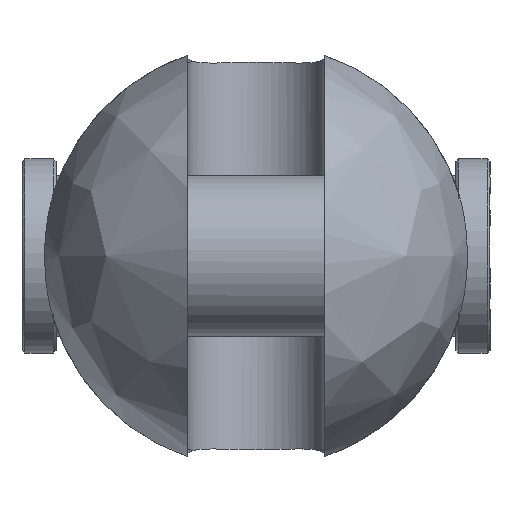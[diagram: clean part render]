
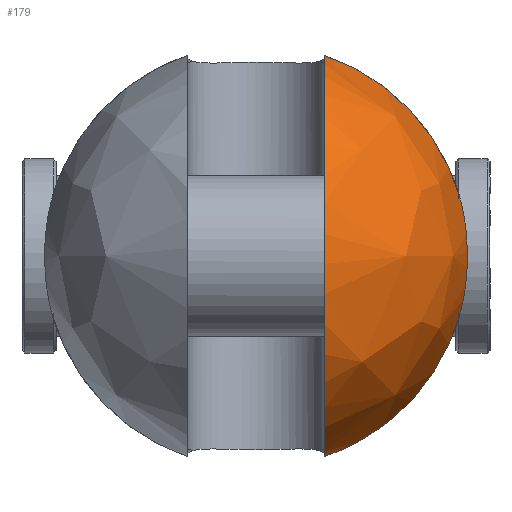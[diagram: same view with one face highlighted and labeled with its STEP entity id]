
A CAD part, left-side view. The second image highlights one B-rep face of the part: STEP entity #179.
In plain terms, the highlighted free-form (B-spline) face has degree [2, 2] with [9, 5] control points.
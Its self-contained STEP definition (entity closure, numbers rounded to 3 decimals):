
#179=ADVANCED_FACE('',(#321),#2442,.T.);
#321=FACE_OUTER_BOUND('',#482,.T.);
#482=EDGE_LOOP('',(#1205,#1206,#1207,#1208));
#1205=ORIENTED_EDGE('',*,*,#1591,.T.);
#1206=ORIENTED_EDGE('',*,*,#1618,.F.);
#1207=ORIENTED_EDGE('',*,*,#1629,.T.);
#1208=ORIENTED_EDGE('',*,*,#1611,.F.);
#1591=EDGE_CURVE('',#2273,#2272,#2004,.T.);
#1611=EDGE_CURVE('',#2273,#2285,#2014,.T.);
#1618=EDGE_CURVE('',#2292,#2272,#2015,.T.);
#1629=EDGE_CURVE('',#2292,#2285,#1805,.T.);
#1805=B_SPLINE_CURVE_WITH_KNOTS('',3,(#6101,#6102,#6103,#6104,#6105,#6106,
#6107,#6108,#6109,#6110,#6111,#6112,#6113,#6114),.UNSPECIFIED.,.F.,.F.,
(4,2,2,2,2,2,4),(0.,1.491,6.078,10.666,
15.254,19.842,21.333),.UNSPECIFIED.);
#2004=(
BOUNDED_CURVE()
B_SPLINE_CURVE(2,(#5921,#5922,#5923,#5924,#5925),.UNSPECIFIED.,.F.,.F.)
B_SPLINE_CURVE_WITH_KNOTS((3,2,3),(-109.956,-54.978,
0.),.UNSPECIFIED.)
CURVE()
GEOMETRIC_REPRESENTATION_ITEM()
RATIONAL_B_SPLINE_CURVE((1.,0.707,1.,0.707,1.))
REPRESENTATION_ITEM('')
);
#2014=(
BOUNDED_CURVE()
B_SPLINE_CURVE(2,(#6023,#6024,#6025),.UNSPECIFIED.,.F.,.F.)
B_SPLINE_CURVE_WITH_KNOTS((3,3),(0.,35.825),.UNSPECIFIED.)
CURVE()
GEOMETRIC_REPRESENTATION_ITEM()
RATIONAL_B_SPLINE_CURVE((1.,0.885,1.))
REPRESENTATION_ITEM('')
);
#2015=(
BOUNDED_CURVE()
B_SPLINE_CURVE(2,(#6054,#6055,#6056),.UNSPECIFIED.,.F.,.F.)
B_SPLINE_CURVE_WITH_KNOTS((3,3),(0.,35.825),.UNSPECIFIED.)
CURVE()
GEOMETRIC_REPRESENTATION_ITEM()
RATIONAL_B_SPLINE_CURVE((1.,0.885,1.))
REPRESENTATION_ITEM('')
);
#2272=VERTEX_POINT('',#5805);
#2273=VERTEX_POINT('',#5806);
#2285=VERTEX_POINT('',#5818);
#2292=VERTEX_POINT('',#5825);
#2442=(
BOUNDED_SURFACE()
B_SPLINE_SURFACE(2,2,((#5519,#5520,#5521,#5522,#5523),(#5524,#5525,#5526,
#5527,#5528),(#5529,#5530,#5531,#5532,#5533),(#5534,#5535,#5536,#5537,#5538),
(#5539,#5540,#5541,#5542,#5543),(#5544,#5545,#5546,#5547,#5548),(#5549,
#5550,#5551,#5552,#5553),(#5554,#5555,#5556,#5557,#5558),(#5559,#5560,#5561,
#5562,#5563)),.UNSPECIFIED.,.T.,.F.,.F.)
B_SPLINE_SURFACE_WITH_KNOTS((3,2,2,2,3),(3,2,3),(0.,58.119,116.239,
174.358,232.478),(0.,58.119,116.239),
 .UNSPECIFIED.)
GEOMETRIC_REPRESENTATION_ITEM()
RATIONAL_B_SPLINE_SURFACE(((1.,0.707,1.,0.707,1.),
(0.707,0.5,0.707,0.5,0.707),(1.,0.707,
1.,0.707,1.),(0.707,0.5,0.707,0.5,0.707),
(1.,0.707,1.,0.707,1.),(0.707,0.5,0.707,
0.5,0.707),(1.,0.707,1.,0.707,1.),(0.707,
0.5,0.707,0.5,0.707),(1.,0.707,1.,0.707,
1.)))
REPRESENTATION_ITEM('')
SURFACE()
);
#5519=CARTESIAN_POINT('',(-52.,0.,0.));
#5520=CARTESIAN_POINT('',(-52.,37.,0.));
#5521=CARTESIAN_POINT('',(-15.,37.,0.));
#5522=CARTESIAN_POINT('',(22.,37.,0.));
#5523=CARTESIAN_POINT('',(22.,0.,0.));
#5524=CARTESIAN_POINT('',(-52.,0.,0.));
#5525=CARTESIAN_POINT('',(-52.,37.,37.));
#5526=CARTESIAN_POINT('',(-15.,37.,37.));
#5527=CARTESIAN_POINT('',(22.,37.,37.));
#5528=CARTESIAN_POINT('',(22.,0.,0.));
#5529=CARTESIAN_POINT('',(-52.,0.,0.));
#5530=CARTESIAN_POINT('',(-52.,0.,37.));
#5531=CARTESIAN_POINT('',(-15.,0.,37.));
#5532=CARTESIAN_POINT('',(22.,0.,37.));
#5533=CARTESIAN_POINT('',(22.,0.,0.));
#5534=CARTESIAN_POINT('',(-52.,0.,0.));
#5535=CARTESIAN_POINT('',(-52.,-37.,37.));
#5536=CARTESIAN_POINT('',(-15.,-37.,37.));
#5537=CARTESIAN_POINT('',(22.,-37.,37.));
#5538=CARTESIAN_POINT('',(22.,0.,0.));
#5539=CARTESIAN_POINT('',(-52.,0.,0.));
#5540=CARTESIAN_POINT('',(-52.,-37.,0.));
#5541=CARTESIAN_POINT('',(-15.,-37.,0.));
#5542=CARTESIAN_POINT('',(22.,-37.,0.));
#5543=CARTESIAN_POINT('',(22.,0.,0.));
#5544=CARTESIAN_POINT('',(-52.,0.,0.));
#5545=CARTESIAN_POINT('',(-52.,-37.,-37.));
#5546=CARTESIAN_POINT('',(-15.,-37.,-37.));
#5547=CARTESIAN_POINT('',(22.,-37.,-37.));
#5548=CARTESIAN_POINT('',(22.,0.,0.));
#5549=CARTESIAN_POINT('',(-52.,0.,0.));
#5550=CARTESIAN_POINT('',(-52.,0.,-37.));
#5551=CARTESIAN_POINT('',(-15.,0.,-37.));
#5552=CARTESIAN_POINT('',(22.,0.,-37.));
#5553=CARTESIAN_POINT('',(22.,0.,0.));
#5554=CARTESIAN_POINT('',(-52.,0.,0.));
#5555=CARTESIAN_POINT('',(-52.,37.,-37.));
#5556=CARTESIAN_POINT('',(-15.,37.,-37.));
#5557=CARTESIAN_POINT('',(22.,37.,-37.));
#5558=CARTESIAN_POINT('',(22.,0.,0.));
#5559=CARTESIAN_POINT('',(-52.,0.,0.));
#5560=CARTESIAN_POINT('',(-52.,37.,0.));
#5561=CARTESIAN_POINT('',(-15.,37.,0.));
#5562=CARTESIAN_POINT('',(22.,37.,0.));
#5563=CARTESIAN_POINT('',(22.,0.,0.));
#5805=CARTESIAN_POINT('',(-15.,-12.,-35.));
#5806=CARTESIAN_POINT('',(-15.,-12.,35.));
#5818=CARTESIAN_POINT('',(-15.,-35.637,9.95));
#5825=CARTESIAN_POINT('',(-15.,-35.637,-9.95));
#5921=CARTESIAN_POINT('',(-15.,-12.,35.));
#5922=CARTESIAN_POINT('',(-50.,-12.,35.));
#5923=CARTESIAN_POINT('',(-50.,-12.,0.));
#5924=CARTESIAN_POINT('',(-50.,-12.,-35.));
#5925=CARTESIAN_POINT('',(-15.,-12.,-35.));
#6023=CARTESIAN_POINT('',(-15.,-12.,35.));
#6024=CARTESIAN_POINT('',(-15.,-30.405,28.69));
#6025=CARTESIAN_POINT('',(-15.,-35.637,9.95));
#6054=CARTESIAN_POINT('',(-15.,-35.637,-9.95));
#6055=CARTESIAN_POINT('',(-15.,-30.405,-28.69));
#6056=CARTESIAN_POINT('',(-15.,-12.,-35.));
#6101=CARTESIAN_POINT('',(-15.,-35.637,-9.95));
#6102=CARTESIAN_POINT('',(-15.265,-35.749,-9.551));
#6103=CARTESIAN_POINT('',(-15.51,-35.851,-9.146));
#6104=CARTESIAN_POINT('',(-16.426,-36.233,-7.498));
#6105=CARTESIAN_POINT('',(-17.025,-36.48,-6.049));
#6106=CARTESIAN_POINT('',(-17.813,-36.802,-3.025));
#6107=CARTESIAN_POINT('',(-18.,-36.878,-1.452));
#6108=CARTESIAN_POINT('',(-18.,-36.878,1.452));
#6109=CARTESIAN_POINT('',(-17.813,-36.802,3.025));
#6110=CARTESIAN_POINT('',(-17.025,-36.48,6.049));
#6111=CARTESIAN_POINT('',(-16.426,-36.233,7.498));
#6112=CARTESIAN_POINT('',(-15.51,-35.851,9.146));
#6113=CARTESIAN_POINT('',(-15.265,-35.749,9.551));
#6114=CARTESIAN_POINT('',(-15.,-35.637,9.95));
